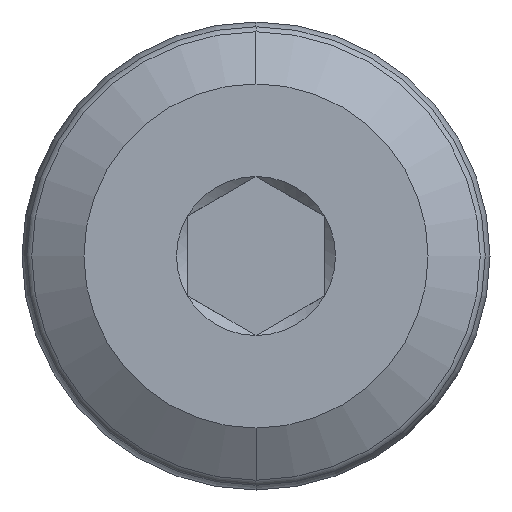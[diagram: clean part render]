
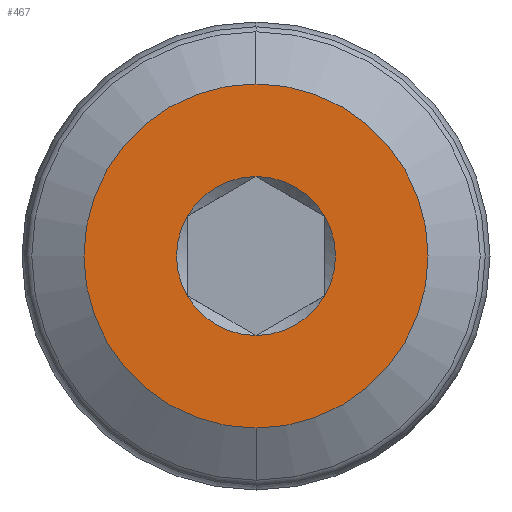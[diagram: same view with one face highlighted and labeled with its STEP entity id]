
A CAD part, left-side view. The second image highlights one B-rep face of the part: STEP entity #467.
In plain terms, the highlighted planar face has unit normal (-1, 0, 0).
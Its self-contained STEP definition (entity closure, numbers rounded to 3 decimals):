
#3 = VERTEX_POINT ( 'NONE', #214 ) ;
#6 = ORIENTED_EDGE ( 'NONE', *, *, #553, .T. ) ;
#11 = EDGE_LOOP ( 'NONE', ( #197, #70 ) ) ;
#15 = AXIS2_PLACEMENT_3D ( 'NONE', #436, #551, #675 ) ;
#23 = VERTEX_POINT ( 'NONE', #719 ) ;
#30 = CARTESIAN_POINT ( 'NONE',  ( 0., 2.5, 0. ) ) ;
#46 = DIRECTION ( 'NONE',  ( 0., 0., -1. ) ) ;
#52 = EDGE_CURVE ( 'NONE', #775, #635, #180, .T. ) ;
#54 = CARTESIAN_POINT ( 'NONE',  ( 0., 0., 0. ) ) ;
#60 = AXIS2_PLACEMENT_3D ( 'NONE', #745, #84, #206 ) ;
#64 = CARTESIAN_POINT ( 'NONE',  ( 0., 0., 0. ) ) ;
#70 = ORIENTED_EDGE ( 'NONE', *, *, #135, .F. ) ;
#84 = DIRECTION ( 'NONE',  ( 1., 0., 0. ) ) ;
#85 = CIRCLE ( 'NONE', #534, 1.155 ) ;
#91 = PLANE ( 'NONE',  #201 ) ;
#106 = DIRECTION ( 'NONE',  ( 1., 0., 0. ) ) ;
#111 = CARTESIAN_POINT ( 'NONE',  ( 0., 0., 1.155 ) ) ;
#112 = EDGE_CURVE ( 'NONE', #178, #462, #594, .T. ) ;
#126 = AXIS2_PLACEMENT_3D ( 'NONE', #54, #298, #544 ) ;
#135 = EDGE_CURVE ( 'NONE', #190, #3, #343, .T. ) ;
#158 = DIRECTION ( 'NONE',  ( 0., 0., 1. ) ) ;
#166 = DIRECTION ( 'NONE',  ( 0., 0., -1. ) ) ;
#178 = VERTEX_POINT ( 'NONE', #604 ) ;
#180 = CIRCLE ( 'NONE', #687, 1.155 ) ;
#181 = DIRECTION ( 'NONE',  ( 1., 0., 0. ) ) ;
#188 = EDGE_CURVE ( 'NONE', #3, #190, #203, .T. ) ;
#190 = VERTEX_POINT ( 'NONE', #239 ) ;
#197 = ORIENTED_EDGE ( 'NONE', *, *, #188, .F. ) ;
#201 = AXIS2_PLACEMENT_3D ( 'NONE', #30, #584, #158 ) ;
#203 = CIRCLE ( 'NONE', #126, 2.5 ) ;
#206 = DIRECTION ( 'NONE',  ( 0., 0., -1. ) ) ;
#214 = CARTESIAN_POINT ( 'NONE',  ( 0., 0., -2.5 ) ) ;
#219 = AXIS2_PLACEMENT_3D ( 'NONE', #348, #181, #602 ) ;
#239 = CARTESIAN_POINT ( 'NONE',  ( 0., 0., 2.5 ) ) ;
#245 = EDGE_CURVE ( 'NONE', #462, #23, #653, .T. ) ;
#266 = DIRECTION ( 'NONE',  ( 0., 0., -1. ) ) ;
#271 = CARTESIAN_POINT ( 'NONE',  ( 0., -1., -0.577 ) ) ;
#274 = DIRECTION ( 'NONE',  ( 1., 0., 0. ) ) ;
#280 = ORIENTED_EDGE ( 'NONE', *, *, #52, .T. ) ;
#287 = CARTESIAN_POINT ( 'NONE',  ( 0., 1., -0.577 ) ) ;
#298 = DIRECTION ( 'NONE',  ( 1., 0., 0. ) ) ;
#305 = ORIENTED_EDGE ( 'NONE', *, *, #245, .T. ) ;
#319 = ORIENTED_EDGE ( 'NONE', *, *, #414, .T. ) ;
#343 = CIRCLE ( 'NONE', #219, 2.5 ) ;
#345 = DIRECTION ( 'NONE',  ( 1., 0., 0. ) ) ;
#348 = CARTESIAN_POINT ( 'NONE',  ( 0., 0., 0. ) ) ;
#364 = DIRECTION ( 'NONE',  ( 1., 0., 0. ) ) ;
#391 = CIRCLE ( 'NONE', #60, 1.155 ) ;
#392 = FACE_BOUND ( 'NONE', #680, .T. ) ;
#413 = CARTESIAN_POINT ( 'NONE',  ( 0., 0., 0. ) ) ;
#414 = EDGE_CURVE ( 'NONE', #569, #775, #85, .T. ) ;
#436 = CARTESIAN_POINT ( 'NONE',  ( 0., 0., 0. ) ) ;
#462 = VERTEX_POINT ( 'NONE', #271 ) ;
#467 = ADVANCED_FACE ( 'NONE', ( #392, #704 ), #91, .T. ) ;
#471 = CIRCLE ( 'NONE', #759, 1.155 ) ;
#534 = AXIS2_PLACEMENT_3D ( 'NONE', #695, #274, #266 ) ;
#537 = DIRECTION ( 'NONE',  ( 0., 0., -1. ) ) ;
#540 = ORIENTED_EDGE ( 'NONE', *, *, #743, .T. ) ;
#544 = DIRECTION ( 'NONE',  ( 0., 0., -1. ) ) ;
#548 = AXIS2_PLACEMENT_3D ( 'NONE', #656, #345, #537 ) ;
#551 = DIRECTION ( 'NONE',  ( 1., 0., 0. ) ) ;
#553 = EDGE_CURVE ( 'NONE', #635, #178, #471, .T. ) ;
#569 = VERTEX_POINT ( 'NONE', #287 ) ;
#584 = DIRECTION ( 'NONE',  ( -1., 0., 0. ) ) ;
#594 = CIRCLE ( 'NONE', #548, 1.155 ) ;
#602 = DIRECTION ( 'NONE',  ( 0., 0., -1. ) ) ;
#604 = CARTESIAN_POINT ( 'NONE',  ( 0., -1., 0.577 ) ) ;
#625 = CARTESIAN_POINT ( 'NONE',  ( 0., 1., 0.577 ) ) ;
#635 = VERTEX_POINT ( 'NONE', #111 ) ;
#653 = CIRCLE ( 'NONE', #15, 1.155 ) ;
#656 = CARTESIAN_POINT ( 'NONE',  ( 0., 0., 0. ) ) ;
#675 = DIRECTION ( 'NONE',  ( 0., 0., -1. ) ) ;
#680 = EDGE_LOOP ( 'NONE', ( #280, #6, #777, #305, #540, #319 ) ) ;
#687 = AXIS2_PLACEMENT_3D ( 'NONE', #413, #106, #46 ) ;
#695 = CARTESIAN_POINT ( 'NONE',  ( 0., 0., 0. ) ) ;
#704 = FACE_OUTER_BOUND ( 'NONE', #11, .T. ) ;
#719 = CARTESIAN_POINT ( 'NONE',  ( 0., 0., -1.155 ) ) ;
#743 = EDGE_CURVE ( 'NONE', #23, #569, #391, .T. ) ;
#745 = CARTESIAN_POINT ( 'NONE',  ( 0., 0., 0. ) ) ;
#759 = AXIS2_PLACEMENT_3D ( 'NONE', #64, #364, #166 ) ;
#775 = VERTEX_POINT ( 'NONE', #625 ) ;
#777 = ORIENTED_EDGE ( 'NONE', *, *, #112, .T. ) ;
